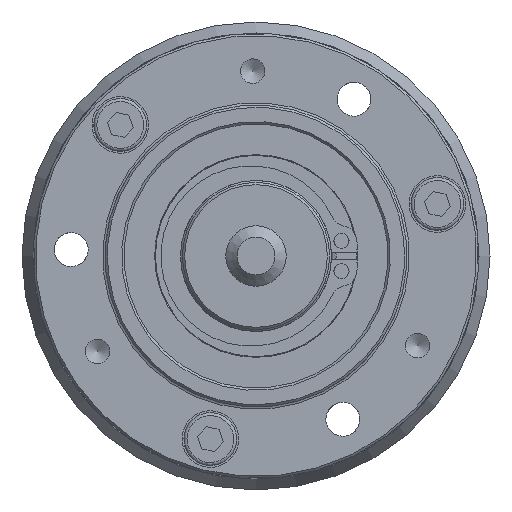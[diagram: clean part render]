
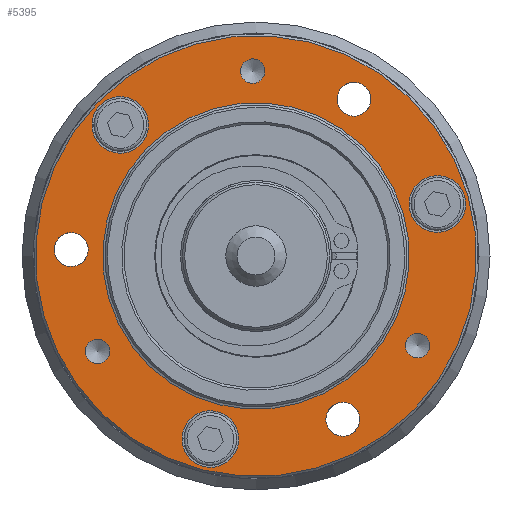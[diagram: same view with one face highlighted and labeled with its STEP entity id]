
A CAD part, left-side view. The second image highlights one B-rep face of the part: STEP entity #5395.
In plain terms, the highlighted planar face has unit normal (-1, 0, 0).
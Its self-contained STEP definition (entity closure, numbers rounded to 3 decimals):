
#874=PLANE('',#5949);
#1029=FACE_BOUND('',#1780,.T.);
#1030=FACE_BOUND('',#1781,.T.);
#1031=FACE_BOUND('',#1782,.T.);
#1032=FACE_BOUND('',#1783,.T.);
#1033=FACE_BOUND('',#1784,.T.);
#1034=FACE_BOUND('',#1785,.T.);
#1035=FACE_BOUND('',#1786,.T.);
#1036=FACE_BOUND('',#1787,.T.);
#1037=FACE_BOUND('',#1788,.T.);
#1038=FACE_BOUND('',#1789,.T.);
#1356=FACE_OUTER_BOUND('',#1779,.T.);
#1779=EDGE_LOOP('',(#4234));
#1780=EDGE_LOOP('',(#4235));
#1781=EDGE_LOOP('',(#4236));
#1782=EDGE_LOOP('',(#4237));
#1783=EDGE_LOOP('',(#4238));
#1784=EDGE_LOOP('',(#4239));
#1785=EDGE_LOOP('',(#4240));
#1786=EDGE_LOOP('',(#4241));
#1787=EDGE_LOOP('',(#4242));
#1788=EDGE_LOOP('',(#4243));
#1789=EDGE_LOOP('',(#4244));
#2198=CIRCLE('',#5948,20.3);
#2199=CIRCLE('',#5950,29.2);
#2200=CIRCLE('',#5951,2.25);
#2201=CIRCLE('',#5952,2.25);
#2202=CIRCLE('',#5953,2.25);
#2203=CIRCLE('',#5954,1.621);
#2204=CIRCLE('',#5955,1.621);
#2205=CIRCLE('',#5956,1.621);
#2206=CIRCLE('',#5957,3.75);
#2207=CIRCLE('',#5958,3.75);
#2208=CIRCLE('',#5959,3.75);
#2562=VERTEX_POINT('',#8575);
#2563=VERTEX_POINT('',#8578);
#2564=VERTEX_POINT('',#8580);
#2565=VERTEX_POINT('',#8582);
#2566=VERTEX_POINT('',#8584);
#2567=VERTEX_POINT('',#8586);
#2568=VERTEX_POINT('',#8588);
#2569=VERTEX_POINT('',#8590);
#2570=VERTEX_POINT('',#8592);
#2571=VERTEX_POINT('',#8594);
#2572=VERTEX_POINT('',#8596);
#3154=EDGE_CURVE('',#2562,#2562,#2198,.T.);
#3155=EDGE_CURVE('',#2563,#2563,#2199,.T.);
#3156=EDGE_CURVE('',#2564,#2564,#2200,.T.);
#3157=EDGE_CURVE('',#2565,#2565,#2201,.T.);
#3158=EDGE_CURVE('',#2566,#2566,#2202,.T.);
#3159=EDGE_CURVE('',#2567,#2567,#2203,.T.);
#3160=EDGE_CURVE('',#2568,#2568,#2204,.T.);
#3161=EDGE_CURVE('',#2569,#2569,#2205,.T.);
#3162=EDGE_CURVE('',#2570,#2570,#2206,.T.);
#3163=EDGE_CURVE('',#2571,#2571,#2207,.T.);
#3164=EDGE_CURVE('',#2572,#2572,#2208,.T.);
#4234=ORIENTED_EDGE('',*,*,#3155,.F.);
#4235=ORIENTED_EDGE('',*,*,#3156,.T.);
#4236=ORIENTED_EDGE('',*,*,#3157,.T.);
#4237=ORIENTED_EDGE('',*,*,#3158,.T.);
#4238=ORIENTED_EDGE('',*,*,#3159,.T.);
#4239=ORIENTED_EDGE('',*,*,#3160,.T.);
#4240=ORIENTED_EDGE('',*,*,#3161,.T.);
#4241=ORIENTED_EDGE('',*,*,#3162,.T.);
#4242=ORIENTED_EDGE('',*,*,#3163,.T.);
#4243=ORIENTED_EDGE('',*,*,#3164,.T.);
#4244=ORIENTED_EDGE('',*,*,#3154,.F.);
#5395=ADVANCED_FACE('',(#1356,#1029,#1030,#1031,#1032,#1033,#1034,#1035,
#1036,#1037,#1038),#874,.T.);
#5948=AXIS2_PLACEMENT_3D('',#8576,#7102,#7103);
#5949=AXIS2_PLACEMENT_3D('',#8577,#7104,#7105);
#5950=AXIS2_PLACEMENT_3D('',#8579,#7106,#7107);
#5951=AXIS2_PLACEMENT_3D('',#8581,#7108,#7109);
#5952=AXIS2_PLACEMENT_3D('',#8583,#7110,#7111);
#5953=AXIS2_PLACEMENT_3D('',#8585,#7112,#7113);
#5954=AXIS2_PLACEMENT_3D('',#8587,#7114,#7115);
#5955=AXIS2_PLACEMENT_3D('',#8589,#7116,#7117);
#5956=AXIS2_PLACEMENT_3D('',#8591,#7118,#7119);
#5957=AXIS2_PLACEMENT_3D('',#8593,#7120,#7121);
#5958=AXIS2_PLACEMENT_3D('',#8595,#7122,#7123);
#5959=AXIS2_PLACEMENT_3D('',#8597,#7124,#7125);
#7102=DIRECTION('center_axis',(-1.,0.,0.));
#7103=DIRECTION('ref_axis',(0.,-0.961,0.276));
#7104=DIRECTION('center_axis',(-1.,0.,0.));
#7105=DIRECTION('ref_axis',(0.,0.276,0.961));
#7106=DIRECTION('center_axis',(1.,0.,0.));
#7107=DIRECTION('ref_axis',(0.,-0.961,0.276));
#7108=DIRECTION('center_axis',(1.,0.,0.));
#7109=DIRECTION('ref_axis',(0.,0.276,0.961));
#7110=DIRECTION('center_axis',(1.,0.,0.));
#7111=DIRECTION('ref_axis',(0.,0.276,0.961));
#7112=DIRECTION('center_axis',(1.,0.,0.));
#7113=DIRECTION('ref_axis',(0.,0.276,0.961));
#7114=DIRECTION('center_axis',(1.,0.,0.));
#7115=DIRECTION('ref_axis',(0.,0.276,0.961));
#7116=DIRECTION('center_axis',(1.,0.,0.));
#7117=DIRECTION('ref_axis',(0.,0.276,0.961));
#7118=DIRECTION('center_axis',(1.,0.,0.));
#7119=DIRECTION('ref_axis',(0.,0.276,0.961));
#7120=DIRECTION('center_axis',(1.,0.,0.));
#7121=DIRECTION('ref_axis',(0.,0.276,0.961));
#7122=DIRECTION('center_axis',(1.,0.,0.));
#7123=DIRECTION('ref_axis',(0.,0.276,0.961));
#7124=DIRECTION('center_axis',(1.,0.,0.));
#7125=DIRECTION('ref_axis',(0.,0.276,0.961));
#8575=CARTESIAN_POINT('',(3.,19.514,-5.595));
#8576=CARTESIAN_POINT('Origin',(3.,0.,0.));
#8577=CARTESIAN_POINT('Origin',(3.,23.791,-6.822));
#8578=CARTESIAN_POINT('',(3.,28.069,-8.049));
#8579=CARTESIAN_POINT('Origin',(3.,0.,0.));
#8580=CARTESIAN_POINT('',(3.,-12.122,-23.795));
#8581=CARTESIAN_POINT('Origin',(3.,-11.502,-21.632));
#8582=CARTESIAN_POINT('',(3.,-13.603,18.614));
#8583=CARTESIAN_POINT('Origin',(3.,-12.983,20.777));
#8584=CARTESIAN_POINT('',(3.,23.865,-1.308));
#8585=CARTESIAN_POINT('Origin',(3.,24.485,0.855));
#8586=CARTESIAN_POINT('',(3.,-0.019,22.938));
#8587=CARTESIAN_POINT('Origin',(3.,0.428,24.496));
#8588=CARTESIAN_POINT('',(3.,20.554,-14.177));
#8589=CARTESIAN_POINT('Origin',(3.,21.001,-12.618));
#8590=CARTESIAN_POINT('',(3.,-21.875,-13.436));
#8591=CARTESIAN_POINT('Origin',(3.,-21.428,-11.878));
#8592=CARTESIAN_POINT('',(3.,16.95,13.762));
#8593=CARTESIAN_POINT('Origin',(3.,17.983,17.366));
#8594=CARTESIAN_POINT('',(3.,5.014,-27.862));
#8595=CARTESIAN_POINT('Origin',(3.,6.048,-24.257));
#8596=CARTESIAN_POINT('',(3.,-25.065,3.286));
#8597=CARTESIAN_POINT('Origin',(3.,-24.032,6.891));
